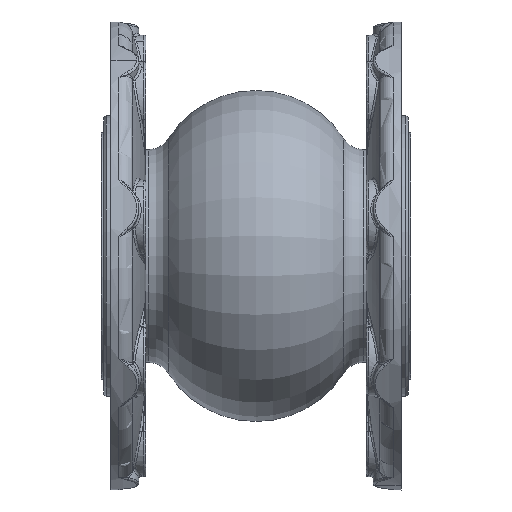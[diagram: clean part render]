
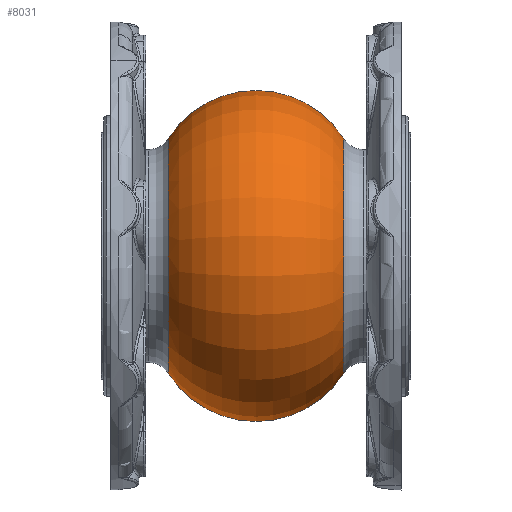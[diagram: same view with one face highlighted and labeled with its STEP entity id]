
A CAD part, left-side view. The second image highlights one B-rep face of the part: STEP entity #8031.
In plain terms, the highlighted toroidal (fillet/blend) face has major radius 26.329 mm and minor radius 44.357 mm.
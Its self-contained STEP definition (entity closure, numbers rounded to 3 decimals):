
#47 = FACE_OUTER_BOUND ( 'NONE', #14663, .T. ) ;
#560 = AXIS2_PLACEMENT_3D ( 'NONE', #13276, #10421, #11780 ) ;
#562 = ORIENTED_EDGE ( 'NONE', *, *, #3385, .T. ) ;
#650 = VERTEX_POINT ( 'NONE', #3824 ) ;
#1326 = CARTESIAN_POINT ( 'NONE',  ( 0., 102.428, -50.133 ) ) ;
#1420 = CIRCLE ( 'NONE', #560, 44.357 ) ;
#2085 = DIRECTION ( 'NONE',  ( 1., 0., 0. ) ) ;
#2326 = VERTEX_POINT ( 'NONE', #1326 ) ;
#2376 = EDGE_CURVE ( 'NONE', #13769, #2326, #3795, .T. ) ;
#3231 = VERTEX_POINT ( 'NONE', #11285 ) ;
#3385 = EDGE_CURVE ( 'NONE', #2326, #650, #1420, .T. ) ;
#3390 = AXIS2_PLACEMENT_3D ( 'NONE', #14318, #2085, #5030 ) ;
#3795 = CIRCLE ( 'NONE', #16266, 50.133 ) ;
#3824 = CARTESIAN_POINT ( 'NONE',  ( 0., 27.572, -50.133 ) ) ;
#5030 = DIRECTION ( 'NONE',  ( 0., 0., -1. ) ) ;
#5523 = CARTESIAN_POINT ( 'NONE',  ( 0., 102.428, 50.133 ) ) ;
#6804 = CIRCLE ( 'NONE', #9098, 50.133 ) ;
#7177 = EDGE_CURVE ( 'NONE', #13769, #3231, #12786, .T. ) ;
#7385 = DIRECTION ( 'NONE',  ( 0., -1., 0. ) ) ;
#7718 = ORIENTED_EDGE ( 'NONE', *, *, #7177, .F. ) ;
#7906 = ORIENTED_EDGE ( 'NONE', *, *, #2376, .T. ) ;
#8031 = ADVANCED_FACE ( 'NONE', ( #47 ), #13930, .T. ) ;
#8448 = CARTESIAN_POINT ( 'NONE',  ( 0., 102.428, 0. ) ) ;
#8541 = DIRECTION ( 'NONE',  ( 0., 0., -1. ) ) ;
#9009 = EDGE_CURVE ( 'NONE', #3231, #650, #6804, .T. ) ;
#9098 = AXIS2_PLACEMENT_3D ( 'NONE', #14025, #16780, #9502 ) ;
#9502 = DIRECTION ( 'NONE',  ( 0., 0., -1. ) ) ;
#10421 = DIRECTION ( 'NONE',  ( -1., 0., 0. ) ) ;
#10843 = DIRECTION ( 'NONE',  ( 0., 0., -1. ) ) ;
#11285 = CARTESIAN_POINT ( 'NONE',  ( 0., 27.572, 50.133 ) ) ;
#11780 = DIRECTION ( 'NONE',  ( 0., 0., 1. ) ) ;
#12786 = CIRCLE ( 'NONE', #3390, 44.357 ) ;
#13276 = CARTESIAN_POINT ( 'NONE',  ( 0., 65., -26.329 ) ) ;
#13769 = VERTEX_POINT ( 'NONE', #5523 ) ;
#13930 = TOROIDAL_SURFACE ( 'NONE', #16204, 26.329, 44.357 ) ;
#14025 = CARTESIAN_POINT ( 'NONE',  ( 0., 27.572, 0. ) ) ;
#14318 = CARTESIAN_POINT ( 'NONE',  ( 0., 65., 26.329 ) ) ;
#14579 = ORIENTED_EDGE ( 'NONE', *, *, #9009, .F. ) ;
#14663 = EDGE_LOOP ( 'NONE', ( #7718, #7906, #562, #14579 ) ) ;
#16204 = AXIS2_PLACEMENT_3D ( 'NONE', #16276, #16365, #10843 ) ;
#16266 = AXIS2_PLACEMENT_3D ( 'NONE', #8448, #7385, #8541 ) ;
#16276 = CARTESIAN_POINT ( 'NONE',  ( 0., 65., 0. ) ) ;
#16365 = DIRECTION ( 'NONE',  ( 0., -1., 0. ) ) ;
#16780 = DIRECTION ( 'NONE',  ( 0., -1., 0. ) ) ;
